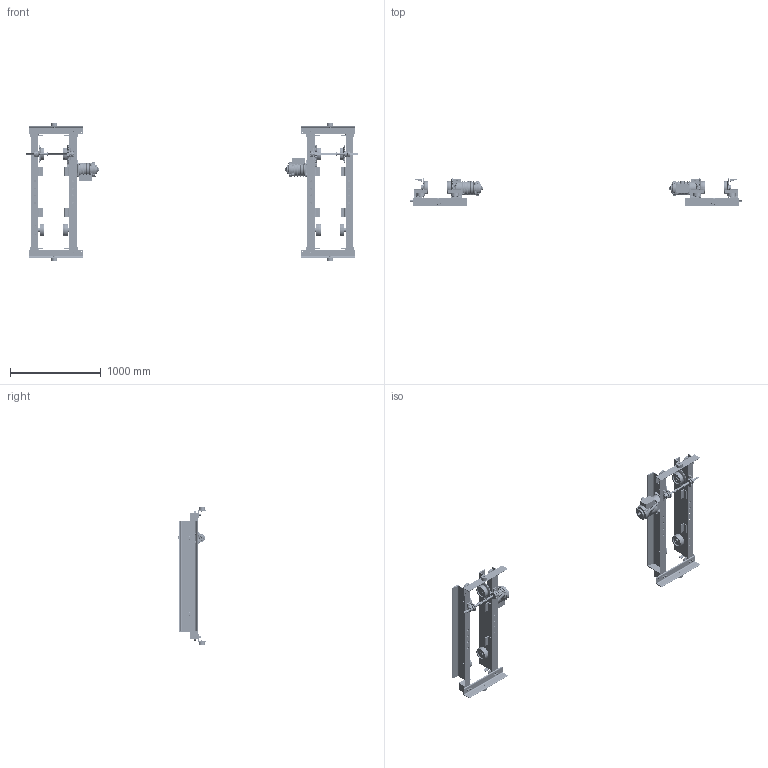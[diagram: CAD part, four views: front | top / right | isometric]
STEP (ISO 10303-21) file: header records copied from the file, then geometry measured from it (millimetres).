
FILE_DESCRIPTION (( 'STEP AP214' ), '1' );
FILE_NAME ('UMH-3-0535.STEP', '2026-08-11T17:25:07', ( '' ), ( '' ), 'SwSTEP 2.0', 'SolidWorks 2026', '' );
FILE_SCHEMA (( 'AUTOMOTIVE_DESIGN' ));
Length unit declared in the file: inch
Products named in the file (88): N6QO3101108_N6QO3101108; MC08-021.4_48; 6257003; 9012711_9012711; 62608_11" FLANGE A; N6QL210115; 6257002_A308-308-006; 62588; 9012514_9012514; N6QL520113; G1JE075S9609; 9043411; 62608_11" FLANGE B; 9012712_9012712; G1JE075S9610; G1JE040S9503; 9093101_9093101; 9000605; N6QL210207; 62587; 6234503; 6232303; G1JE040S9303; G1JE075S9603; 62340XXU_6234002U; G1CM075T_ROTATED 180 DEGREES; UMH-3-0535; 9000508; 9798526_9798526; N6QO310E9108_N6QO3101108 DOMESTIC; 9047125_B27.7M - 3AM1-23; 9093329_9093329; 62342XXU_6234202U; 9093433_9093433; G1JE040S9310; 6232404; G1JE040S9707; 62338XXU_6233802U; 6257001; 9091273_9091273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
Assembly tree (385 placements, depth 5):
  UMH-3-0535
    62341XXU_6234102U
      62338XXU_6233802U
        MC08-021.4_48
        6257003
          6257002_A308-308-006
          6257001
        6257003
          6257002_A308-308-006
          6257001
      6232303  x2
      6232304  x2
      5204405_5204405  x2
      6233203  x2
      6257005
    62342XXU_6234202U  x2
      62339XXU_6233902U
        MC08-021.4_48
        6257003
          6257002_A308-308-006
          6257001
        6257003
          6257002_A308-308-006
          6257001
      6232303
      6232304
      5204405_5204405
      6233203
    62343XXU_6234302U
      62340XXU_6234002U
        MC08-021.4_48
        6257003
          6257002_A308-308-006
          6257001
        6257003
          6257002_A308-308-006
          6257001
      6232303  x2
      6232304  x2
      5204405_5204405  x2
      6233203  x2
      6257005
    62608_11" FLANGE B  x2
      62607XX_6260703
    62608_11" FLANGE A  x2
      62607XX_6260704
    6234503  x4
      6232603
      9047268_B27.7M - 3BM1-68
      9000508
    6232403  x8
    9047140_9047140  x8
    N6QL5301101  x4
      N6QL530E9101_Domestic
      9047268_B27.7M - 3BM1-68
      9000508
    6232404  x8
    9047125_B27.7M - 3AM1-23  x8
    9012515_9012515  x16
    9093433_9093433  x32
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Bounding box: 3659.46 x 302.92 x 1525.81 mm (x, y, z)
Volume: 41181805.6 mm3; surface area: 8497754.3 mm2
Topology: 406 solids, 502 shells, 26640 faces, 69394 edges, 44954 vertices
Faces by surface type: plane 13272, cylinder 7158, cone 3274, bspline 1898, torus 862, sphere 176
Entity records: 189319 total; most frequent: CARTESIAN_POINT 60465, ORIENTED_EDGE 26516, DIRECTION 25716, EDGE_CURVE 13262, AXIS2_PLACEMENT_3D 9921, VERTEX_POINT 8501, VECTOR 5874, LINE 5874
